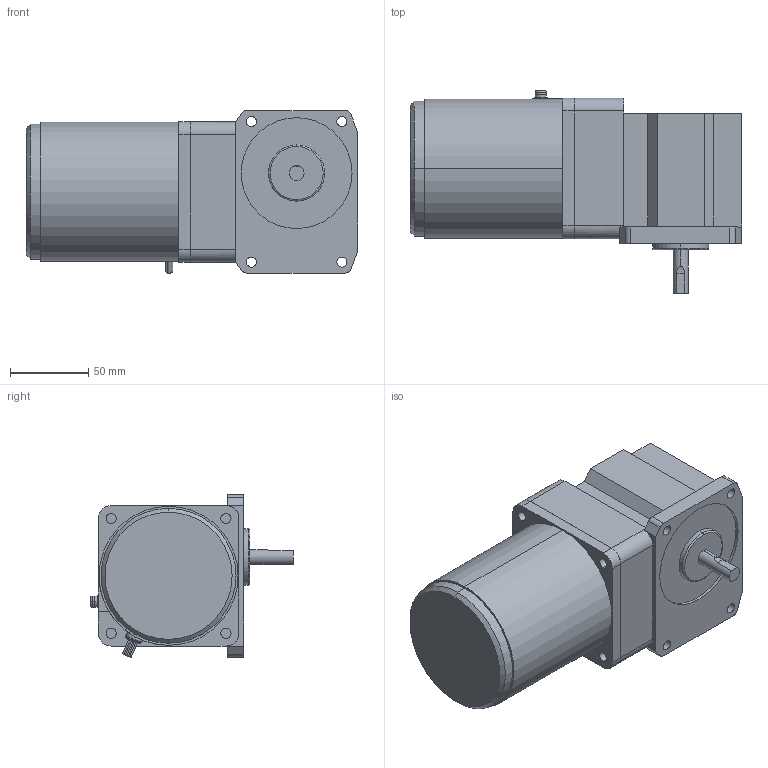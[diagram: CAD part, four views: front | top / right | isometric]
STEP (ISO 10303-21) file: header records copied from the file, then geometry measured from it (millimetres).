
FILE_DESCRIPTION(('starvars output'),'2;1');
FILE_NAME('5IK40GN-AW2U _ 5GN36RAA.stp','10:38:25 2015/05/11',( 'Thomas Industrial Network Germany GmbH'),( 'Thomas Industrial Network Germany GmbH'),'unknown preprocess','ACIS' ,'unknown authorization');
FILE_SCHEMA(('AUTOMOTIVE_DESIGN_CC2 {UNKNOWN IMPLEMENTATION LEVEL}'));
Length unit declared in the file: millimetre
Products named in the file (1): PRODUCT_ID_756
Bounding box: 212 x 130 x 104.23 mm (x, y, z)
Volume: 1415087.7 mm3; surface area: 90594.2 mm2
Topology: 2 solids, 2 shells, 141 faces, 343 edges, 225 vertices
Faces by surface type: cylinder 66, plane 65, torus 8, cone 2
Entity records: 5064 total; most frequent: CARTESIAN_POINT 725, ORIENTED_EDGE 686, DIRECTION 602, EDGE_CURVE 343, VERTEX_POINT 225, AXIS2_PLACEMENT_3D 208, VECTOR 186, LINE 186
